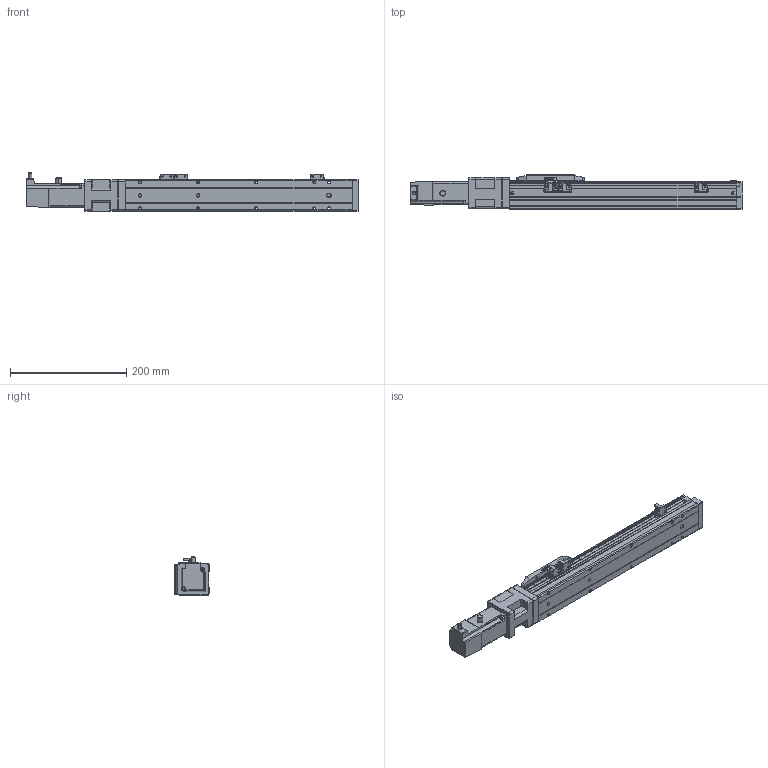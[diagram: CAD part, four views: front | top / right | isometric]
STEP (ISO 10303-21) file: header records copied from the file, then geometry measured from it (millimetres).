
FILE_DESCRIPTION (( 'STEP AP203' ), '1' );
FILE_NAME ('CTH5-L10-S250-BC-C10(¼ò).STEP', '2023-02-04T02:09:42', ( '' ), ( '' ), 'SwSTEP 2.0', 'SolidWorks 2018', '' );
FILE_SCHEMA (( 'CONFIG_CONTROL_DESIGN' ));
Length unit declared in the file: millimetre
Products named in the file (21): CTH5萇儂釱; CTH5萇儂釱欶; CTH5賑怢; CTH5耜晚蹟隊; hex nuts, style 1-grades ab gb_GB_FASTENER_NUT_SNAB1 M3-N; CTH5綴耜啣; CTH5-BC-03; 葩璃 蚾饜极13^CTH8-L10-S50-BM-C40(潠)1; CTH5耜晚蹟隊-1; CTH5ヶ耜啣(潠); T10-p1; M3; M3｡｣; 嫖萇羲壽郪磁1; PM-Y45; CTH5覜茼え; CTH5菁釱-L390; CTH5-L10-S250-BC-C10(潠); 内六角圆柱头螺钉M3-2; CTH嫖萇羲壽假蚾啣; 100W萇儂
Assembly tree (37 placements, depth 3):
  CTH5-L10-S250-BC-C10(潠)
    CTH5綴耜啣
    CTH5賑怢
    CTH5ヶ耜啣(潠)
    CTH5菁釱-L390
    CTH5耜晚蹟隊  x2
    CTH5萇儂釱
      CTH5-BC-03
    CTH5萇儂釱欶
    100W萇儂
      T10-p1
    嫖萇羲壽郪磁1  x2
      CTH嫖萇羲壽假蚾啣
      PM-Y45
      M3｡｣
      内六角圆柱头螺钉M3-2
      hex nuts, style 1-grades ab gb_GB_FASTENER_NUT_SNAB1 M3-N
    CTH5覜茼え
    葩璃 蚾饜极13^CTH8-L10-S50-BM-C40(潠)1
      CTH嫖萇羲壽假蚾啣
      PM-Y45
      内六角圆柱头螺钉M3-2  x2
      M3｡｣  x2
      hex nuts, style 1-grades ab gb_GB_FASTENER_NUT_SNAB1 M3-N  x2
    M3  x2
    CTH5耜晚蹟隊-1  x4
Bounding box: 571.1 x 60 x 65.7 mm (x, y, z)
Volume: 1199078 mm3; surface area: 193453.3 mm2
Topology: 40 solids, 40 shells, 1503 faces, 3744 edges, 2418 vertices
Faces by surface type: plane 848, cylinder 434, cone 159, torus 44, bspline 18
Entity records: 33441 total; most frequent: CARTESIAN_POINT 6132, DIRECTION 5260, ORIENTED_EDGE 5036, EDGE_CURVE 2518, AXIS2_PLACEMENT_3D 1805, VECTOR 1650, LINE 1650, VERTEX_POINT 1624
